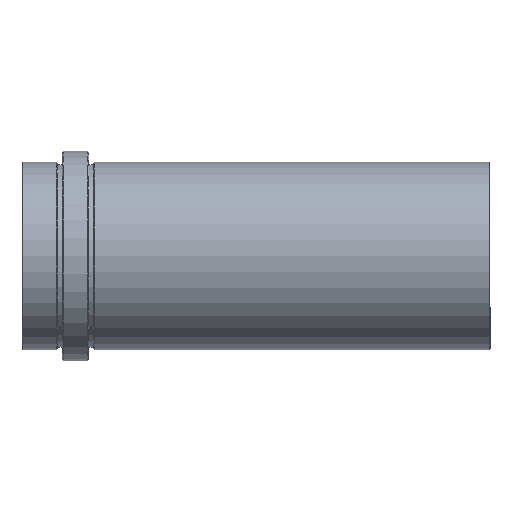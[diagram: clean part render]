
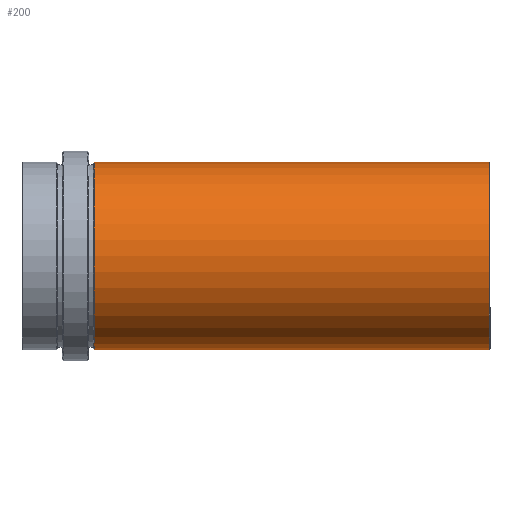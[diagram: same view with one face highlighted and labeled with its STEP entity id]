
A CAD part, top view. The second image highlights one B-rep face of the part: STEP entity #200.
In plain terms, the highlighted cylindrical face has radius 21 mm (diameter 42 mm), a partial arc.
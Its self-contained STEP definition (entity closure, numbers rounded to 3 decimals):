
#63 = AXIS2_PLACEMENT_3D ( 'NONE', #708, #712, #706 ) ;
#81 = AXIS2_PLACEMENT_3D ( 'NONE', #408, #407, #406 ) ;
#83 = CIRCLE ( 'NONE', #81, 21. ) ;
#89 = VECTOR ( 'NONE', #392, 1000. ) ;
#90 = CIRCLE ( 'NONE', #101, 21. ) ;
#101 = AXIS2_PLACEMENT_3D ( 'NONE', #374, #373, #372 ) ;
#102 = VECTOR ( 'NONE', #348, 1000. ) ;
#200 = ADVANCED_FACE ( 'NONE', ( #709 ), #711, .T. ) ;
#237 = EDGE_CURVE ( 'NONE', #919, #649, #83, .T. ) ;
#241 = EDGE_CURVE ( 'NONE', #649, #850, #401, .T. ) ;
#246 = EDGE_CURVE ( 'NONE', #850, #653, #90, .T. ) ;
#253 = EDGE_CURVE ( 'NONE', #919, #653, #354, .T. ) ;
#348 = DIRECTION ( 'NONE',  ( 1., 0., 0. ) ) ;
#354 = LINE ( 'NONE', #357, #102 ) ;
#357 = CARTESIAN_POINT ( 'NONE',  ( 0., 21., 0. ) ) ;
#372 = DIRECTION ( 'NONE',  ( 0., 1., 0. ) ) ;
#373 = DIRECTION ( 'NONE',  ( -1., 0., 0. ) ) ;
#374 = CARTESIAN_POINT ( 'NONE',  ( -0.2, 0., 0. ) ) ;
#392 = DIRECTION ( 'NONE',  ( 1., 0., 0. ) ) ;
#393 = CARTESIAN_POINT ( 'NONE',  ( 0., -21., 0. ) ) ;
#401 = LINE ( 'NONE', #393, #89 ) ;
#406 = DIRECTION ( 'NONE',  ( 0., -1., 0. ) ) ;
#407 = DIRECTION ( 'NONE',  ( 1., 0., 0. ) ) ;
#408 = CARTESIAN_POINT ( 'NONE',  ( -88.8, 0., 0. ) ) ;
#452 = CARTESIAN_POINT ( 'NONE',  ( -0.2, 21., 0. ) ) ;
#456 = CARTESIAN_POINT ( 'NONE',  ( -88.8, -21., 0. ) ) ;
#463 = CARTESIAN_POINT ( 'NONE',  ( -88.8, 21., 0. ) ) ;
#471 = CARTESIAN_POINT ( 'NONE',  ( -0.2, -21., 0. ) ) ;
#649 = VERTEX_POINT ( 'NONE', #456 ) ;
#653 = VERTEX_POINT ( 'NONE', #452 ) ;
#706 = DIRECTION ( 'NONE',  ( 0., 1., 0. ) ) ;
#708 = CARTESIAN_POINT ( 'NONE',  ( 0., 0., 0. ) ) ;
#709 = FACE_OUTER_BOUND ( 'NONE', #904, .T. ) ;
#711 = CYLINDRICAL_SURFACE ( 'NONE', #63, 21. ) ;
#712 = DIRECTION ( 'NONE',  ( 1., 0., 0. ) ) ;
#791 = ORIENTED_EDGE ( 'NONE', *, *, #253, .F. ) ;
#792 = ORIENTED_EDGE ( 'NONE', *, *, #246, .T. ) ;
#793 = ORIENTED_EDGE ( 'NONE', *, *, #241, .T. ) ;
#801 = ORIENTED_EDGE ( 'NONE', *, *, #237, .T. ) ;
#850 = VERTEX_POINT ( 'NONE', #471 ) ;
#904 = EDGE_LOOP ( 'NONE', ( #801, #793, #792, #791 ) ) ;
#919 = VERTEX_POINT ( 'NONE', #463 ) ;
